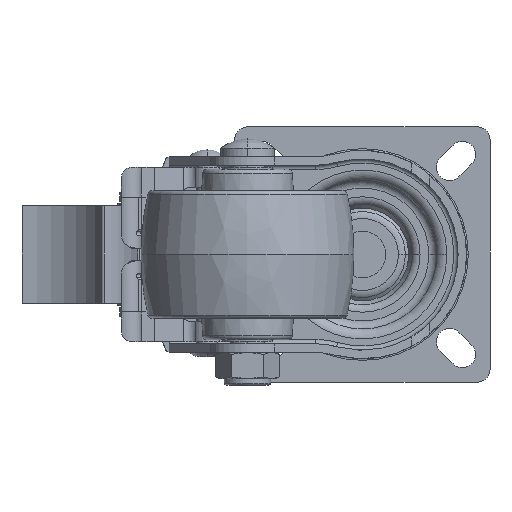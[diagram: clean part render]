
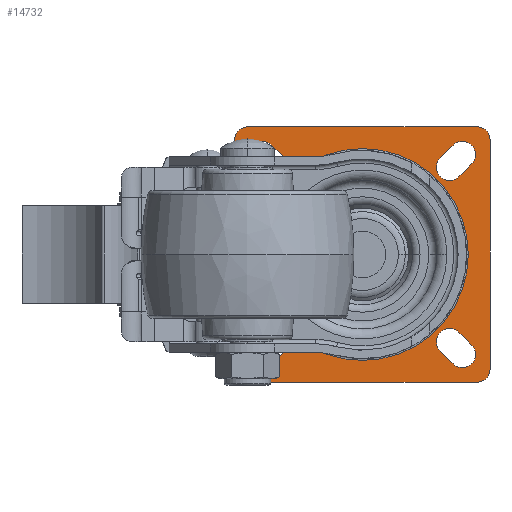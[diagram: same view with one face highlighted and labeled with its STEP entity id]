
A CAD part, front view. The second image highlights one B-rep face of the part: STEP entity #14732.
In plain terms, the highlighted planar face has unit normal (0, -1, 0).
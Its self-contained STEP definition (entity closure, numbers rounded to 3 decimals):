
#13867=CARTESIAN_POINT('',(0.,5.5,0.));
#13868=DIRECTION('',(0.,1.,0.));
#13869=DIRECTION('',(1.,0.,0.));
#13870=AXIS2_PLACEMENT_3D('',#13867,#13868,#13869);
#13872=CARTESIAN_POINT('',(0.,5.5,0.));
#13873=DIRECTION('',(0.,-1.,0.));
#13874=DIRECTION('',(1.,0.,0.));
#13875=AXIS2_PLACEMENT_3D('',#13872,#13873,#13874);
#13877=CARTESIAN_POINT('',(-23.5,5.5,-23.5));
#13878=DIRECTION('',(0.,-1.,0.));
#13879=DIRECTION('',(-0.707,0.,0.707));
#13880=AXIS2_PLACEMENT_3D('',#13877,#13878,#13879);
#13882=DIRECTION('',(-0.707,0.,-0.707));
#13883=VECTOR('',#13882,4.243);
#13884=CARTESIAN_POINT('',(-18.308,5.5,-22.692));
#13885=LINE('',#13884,#13883);
#13886=CARTESIAN_POINT('',(-20.5,5.5,-20.5));
#13887=DIRECTION('',(0.,-1.,0.));
#13888=DIRECTION('',(0.707,0.,-0.707));
#13889=AXIS2_PLACEMENT_3D('',#13886,#13887,#13888);
#13891=DIRECTION('',(0.707,0.,0.707));
#13892=VECTOR('',#13891,4.243);
#13893=CARTESIAN_POINT('',(-25.692,5.5,-21.308));
#13894=LINE('',#13893,#13892);
#13895=DIRECTION('',(0.707,0.,-0.707));
#13896=VECTOR('',#13895,4.243);
#13897=CARTESIAN_POINT('',(22.692,5.5,-18.308));
#13898=LINE('',#13897,#13896);
#13899=CARTESIAN_POINT('',(20.5,5.5,-20.5));
#13900=DIRECTION('',(0.,-1.,0.));
#13901=DIRECTION('',(0.707,0.,0.707));
#13902=AXIS2_PLACEMENT_3D('',#13899,#13900,#13901);
#13904=DIRECTION('',(-0.707,0.,0.707));
#13905=VECTOR('',#13904,4.243);
#13906=CARTESIAN_POINT('',(21.308,5.5,-25.692));
#13907=LINE('',#13906,#13905);
#13908=CARTESIAN_POINT('',(23.5,5.5,-23.5));
#13909=DIRECTION('',(0.,-1.,0.));
#13910=DIRECTION('',(-0.707,0.,-0.707));
#13911=AXIS2_PLACEMENT_3D('',#13908,#13909,#13910);
#13913=CARTESIAN_POINT('',(23.5,5.5,23.5));
#13914=DIRECTION('',(0.,-1.,0.));
#13915=DIRECTION('',(0.707,0.,-0.707));
#13916=AXIS2_PLACEMENT_3D('',#13913,#13914,#13915);
#13918=DIRECTION('',(0.707,0.,0.707));
#13919=VECTOR('',#13918,4.243);
#13920=CARTESIAN_POINT('',(18.308,5.5,22.692));
#13921=LINE('',#13920,#13919);
#13922=CARTESIAN_POINT('',(20.5,5.5,20.5));
#13923=DIRECTION('',(0.,-1.,0.));
#13924=DIRECTION('',(-0.707,0.,0.707));
#13925=AXIS2_PLACEMENT_3D('',#13922,#13923,#13924);
#13927=DIRECTION('',(-0.707,0.,-0.707));
#13928=VECTOR('',#13927,4.243);
#13929=CARTESIAN_POINT('',(25.692,5.5,21.308));
#13930=LINE('',#13929,#13928);
#13931=DIRECTION('',(-0.707,0.,0.707));
#13932=VECTOR('',#13931,4.243);
#13933=CARTESIAN_POINT('',(-22.692,5.5,18.308));
#13934=LINE('',#13933,#13932);
#13935=CARTESIAN_POINT('',(-20.5,5.5,20.5));
#13936=DIRECTION('',(0.,-1.,0.));
#13937=DIRECTION('',(-0.707,0.,-0.707));
#13938=AXIS2_PLACEMENT_3D('',#13935,#13936,#13937);
#13940=DIRECTION('',(0.707,0.,-0.707));
#13941=VECTOR('',#13940,4.243);
#13942=CARTESIAN_POINT('',(-21.308,5.5,25.692));
#13943=LINE('',#13942,#13941);
#13944=CARTESIAN_POINT('',(-23.5,5.5,23.5));
#13945=DIRECTION('',(0.,-1.,0.));
#13946=DIRECTION('',(0.707,0.,0.707));
#13947=AXIS2_PLACEMENT_3D('',#13944,#13945,#13946);
#13949=CARTESIAN_POINT('',(27.,5.5,27.));
#13950=DIRECTION('',(0.,-1.,0.));
#13951=DIRECTION('',(1.,0.,0.));
#13952=AXIS2_PLACEMENT_3D('',#13949,#13950,#13951);
#13954=DIRECTION('',(0.,0.,1.));
#13955=VECTOR('',#13954,54.);
#13956=CARTESIAN_POINT('',(30.,5.5,-27.));
#13957=LINE('',#13956,#13955);
#13958=CARTESIAN_POINT('',(27.,5.5,-27.));
#13959=DIRECTION('',(0.,-1.,0.));
#13960=DIRECTION('',(0.,0.,-1.));
#13961=AXIS2_PLACEMENT_3D('',#13958,#13959,#13960);
#13963=DIRECTION('',(1.,0.,0.));
#13964=VECTOR('',#13963,54.);
#13965=CARTESIAN_POINT('',(-27.,5.5,-30.));
#13966=LINE('',#13965,#13964);
#13967=CARTESIAN_POINT('',(-27.,5.5,-27.));
#13968=DIRECTION('',(0.,-1.,0.));
#13969=DIRECTION('',(-1.,0.,0.));
#13970=AXIS2_PLACEMENT_3D('',#13967,#13968,#13969);
#13972=DIRECTION('',(0.,0.,-1.));
#13973=VECTOR('',#13972,54.);
#13974=CARTESIAN_POINT('',(-30.,5.5,27.));
#13975=LINE('',#13974,#13973);
#13976=CARTESIAN_POINT('',(-27.,5.5,27.));
#13977=DIRECTION('',(0.,-1.,0.));
#13978=DIRECTION('',(0.,0.,1.));
#13979=AXIS2_PLACEMENT_3D('',#13976,#13977,#13978);
#13981=DIRECTION('',(-1.,0.,0.));
#13982=VECTOR('',#13981,54.);
#13983=CARTESIAN_POINT('',(27.,5.5,30.));
#13984=LINE('',#13983,#13982);
#14513=CARTESIAN_POINT('',(24.897,5.5,0.));
#14514=VERTEX_POINT('',#14513);
#14549=CARTESIAN_POINT('',(-24.897,5.5,0.));
#14550=VERTEX_POINT('',#14549);
#14567=CARTESIAN_POINT('',(-25.692,5.5,-21.308));
#14568=CARTESIAN_POINT('',(-21.308,5.5,-25.692));
#14569=VERTEX_POINT('',#14567);
#14570=VERTEX_POINT('',#14568);
#14571=CARTESIAN_POINT('',(-18.308,5.5,-22.692));
#14572=VERTEX_POINT('',#14571);
#14573=CARTESIAN_POINT('',(-22.692,5.5,-18.308));
#14574=VERTEX_POINT('',#14573);
#14575=CARTESIAN_POINT('',(22.692,5.5,-18.308));
#14576=CARTESIAN_POINT('',(25.692,5.5,-21.308));
#14577=VERTEX_POINT('',#14575);
#14578=VERTEX_POINT('',#14576);
#14579=CARTESIAN_POINT('',(18.308,5.5,-22.692));
#14580=VERTEX_POINT('',#14579);
#14581=CARTESIAN_POINT('',(21.308,5.5,-25.692));
#14582=VERTEX_POINT('',#14581);
#14583=CARTESIAN_POINT('',(25.692,5.5,21.308));
#14584=CARTESIAN_POINT('',(21.308,5.5,25.692));
#14585=VERTEX_POINT('',#14583);
#14586=VERTEX_POINT('',#14584);
#14587=CARTESIAN_POINT('',(18.308,5.5,22.692));
#14588=VERTEX_POINT('',#14587);
#14589=CARTESIAN_POINT('',(22.692,5.5,18.308));
#14590=VERTEX_POINT('',#14589);
#14591=CARTESIAN_POINT('',(-22.692,5.5,18.308));
#14592=CARTESIAN_POINT('',(-25.692,5.5,21.308));
#14593=VERTEX_POINT('',#14591);
#14594=VERTEX_POINT('',#14592);
#14595=CARTESIAN_POINT('',(-18.308,5.5,22.692));
#14596=VERTEX_POINT('',#14595);
#14597=CARTESIAN_POINT('',(-21.308,5.5,25.692));
#14598=VERTEX_POINT('',#14597);
#14635=CARTESIAN_POINT('',(30.,5.5,27.));
#14636=VERTEX_POINT('',#14635);
#14637=CARTESIAN_POINT('',(27.,5.5,30.));
#14638=VERTEX_POINT('',#14637);
#14643=CARTESIAN_POINT('',(-27.,5.5,30.));
#14644=VERTEX_POINT('',#14643);
#14645=CARTESIAN_POINT('',(-30.,5.5,27.));
#14646=VERTEX_POINT('',#14645);
#14651=CARTESIAN_POINT('',(-30.,5.5,-27.));
#14652=VERTEX_POINT('',#14651);
#14653=CARTESIAN_POINT('',(-27.,5.5,-30.));
#14654=VERTEX_POINT('',#14653);
#14659=CARTESIAN_POINT('',(27.,5.5,-30.));
#14660=VERTEX_POINT('',#14659);
#14661=CARTESIAN_POINT('',(30.,5.5,-27.));
#14662=VERTEX_POINT('',#14661);
#14663=CARTESIAN_POINT('',(0.,5.5,0.));
#14664=DIRECTION('',(0.,-1.,0.));
#14665=DIRECTION('',(-1.,0.,0.));
#14666=AXIS2_PLACEMENT_3D('',#14663,#14664,#14665);
#14667=PLANE('',#14666);
#14669=ORIENTED_EDGE('',*,*,#14668,.F.);
#14671=ORIENTED_EDGE('',*,*,#14670,.F.);
#14673=ORIENTED_EDGE('',*,*,#14672,.F.);
#14675=ORIENTED_EDGE('',*,*,#14674,.F.);
#14677=ORIENTED_EDGE('',*,*,#14676,.F.);
#14679=ORIENTED_EDGE('',*,*,#14678,.F.);
#14681=ORIENTED_EDGE('',*,*,#14680,.F.);
#14683=ORIENTED_EDGE('',*,*,#14682,.F.);
#14684=EDGE_LOOP('',(#14669,#14671,#14673,#14675,#14677,#14679,#14681,#14683));
#14685=FACE_OUTER_BOUND('',#14684,.F.);
#14687=ORIENTED_EDGE('',*,*,#14686,.T.);
#14689=ORIENTED_EDGE('',*,*,#14688,.F.);
#14691=ORIENTED_EDGE('',*,*,#14690,.T.);
#14693=ORIENTED_EDGE('',*,*,#14692,.F.);
#14694=EDGE_LOOP('',(#14687,#14689,#14691,#14693));
#14695=FACE_BOUND('',#14694,.F.);
#14697=ORIENTED_EDGE('',*,*,#14696,.F.);
#14699=ORIENTED_EDGE('',*,*,#14698,.T.);
#14701=ORIENTED_EDGE('',*,*,#14700,.F.);
#14703=ORIENTED_EDGE('',*,*,#14702,.T.);
#14704=EDGE_LOOP('',(#14697,#14699,#14701,#14703));
#14705=FACE_BOUND('',#14704,.F.);
#14707=ORIENTED_EDGE('',*,*,#14706,.T.);
#14709=ORIENTED_EDGE('',*,*,#14708,.F.);
#14711=ORIENTED_EDGE('',*,*,#14710,.T.);
#14713=ORIENTED_EDGE('',*,*,#14712,.F.);
#14714=EDGE_LOOP('',(#14707,#14709,#14711,#14713));
#14715=FACE_BOUND('',#14714,.F.);
#14717=ORIENTED_EDGE('',*,*,#14716,.F.);
#14719=ORIENTED_EDGE('',*,*,#14718,.T.);
#14721=ORIENTED_EDGE('',*,*,#14720,.F.);
#14723=ORIENTED_EDGE('',*,*,#14722,.T.);
#14724=EDGE_LOOP('',(#14717,#14719,#14721,#14723));
#14725=FACE_BOUND('',#14724,.F.);
#14727=ORIENTED_EDGE('',*,*,#14726,.F.);
#14729=ORIENTED_EDGE('',*,*,#14728,.T.);
#14730=EDGE_LOOP('',(#14727,#14729));
#14731=FACE_BOUND('',#14730,.F.);
#13871=CIRCLE('',#13870,24.897);
#13876=CIRCLE('',#13875,24.897);
#13881=CIRCLE('',#13880,3.1);
#13890=CIRCLE('',#13889,3.1);
#13903=CIRCLE('',#13902,3.1);
#13912=CIRCLE('',#13911,3.1);
#13917=CIRCLE('',#13916,3.1);
#13926=CIRCLE('',#13925,3.1);
#13939=CIRCLE('',#13938,3.1);
#13948=CIRCLE('',#13947,3.1);
#13953=CIRCLE('',#13952,3.);
#13962=CIRCLE('',#13961,3.);
#13971=CIRCLE('',#13970,3.);
#13980=CIRCLE('',#13979,3.);
#14668=EDGE_CURVE('',#14636,#14638,#13953,.T.);
#14670=EDGE_CURVE('',#14662,#14636,#13957,.T.);
#14672=EDGE_CURVE('',#14660,#14662,#13962,.T.);
#14674=EDGE_CURVE('',#14654,#14660,#13966,.T.);
#14676=EDGE_CURVE('',#14652,#14654,#13971,.T.);
#14678=EDGE_CURVE('',#14646,#14652,#13975,.T.);
#14680=EDGE_CURVE('',#14644,#14646,#13980,.T.);
#14682=EDGE_CURVE('',#14638,#14644,#13984,.T.);
#14686=EDGE_CURVE('',#14569,#14570,#13881,.T.);
#14688=EDGE_CURVE('',#14572,#14570,#13885,.T.);
#14690=EDGE_CURVE('',#14572,#14574,#13890,.T.);
#14692=EDGE_CURVE('',#14569,#14574,#13894,.T.);
#14696=EDGE_CURVE('',#14577,#14578,#13898,.T.);
#14698=EDGE_CURVE('',#14577,#14580,#13903,.T.);
#14700=EDGE_CURVE('',#14582,#14580,#13907,.T.);
#14702=EDGE_CURVE('',#14582,#14578,#13912,.T.);
#14706=EDGE_CURVE('',#14585,#14586,#13917,.T.);
#14708=EDGE_CURVE('',#14588,#14586,#13921,.T.);
#14710=EDGE_CURVE('',#14588,#14590,#13926,.T.);
#14712=EDGE_CURVE('',#14585,#14590,#13930,.T.);
#14716=EDGE_CURVE('',#14593,#14594,#13934,.T.);
#14718=EDGE_CURVE('',#14593,#14596,#13939,.T.);
#14720=EDGE_CURVE('',#14598,#14596,#13943,.T.);
#14722=EDGE_CURVE('',#14598,#14594,#13948,.T.);
#14726=EDGE_CURVE('',#14514,#14550,#13871,.T.);
#14728=EDGE_CURVE('',#14514,#14550,#13876,.T.);
#14732=ADVANCED_FACE('',(#14685,#14695,#14705,#14715,#14725,#14731),#14667,.T.);
